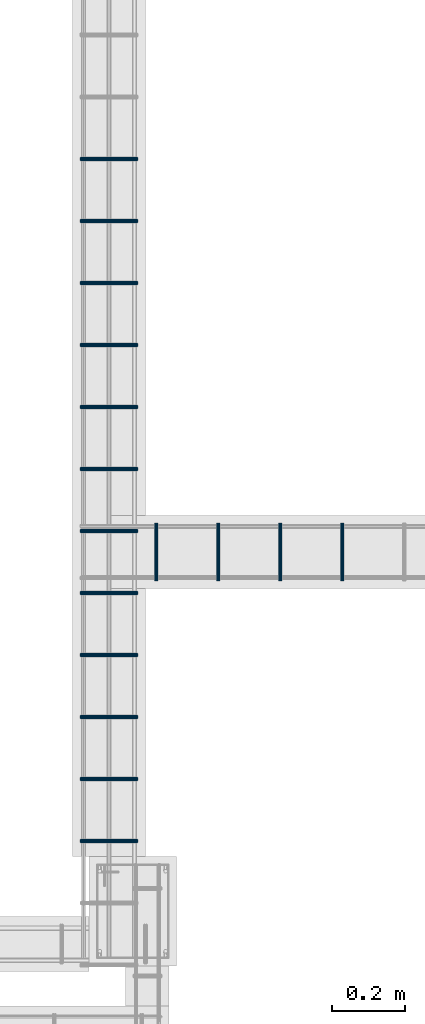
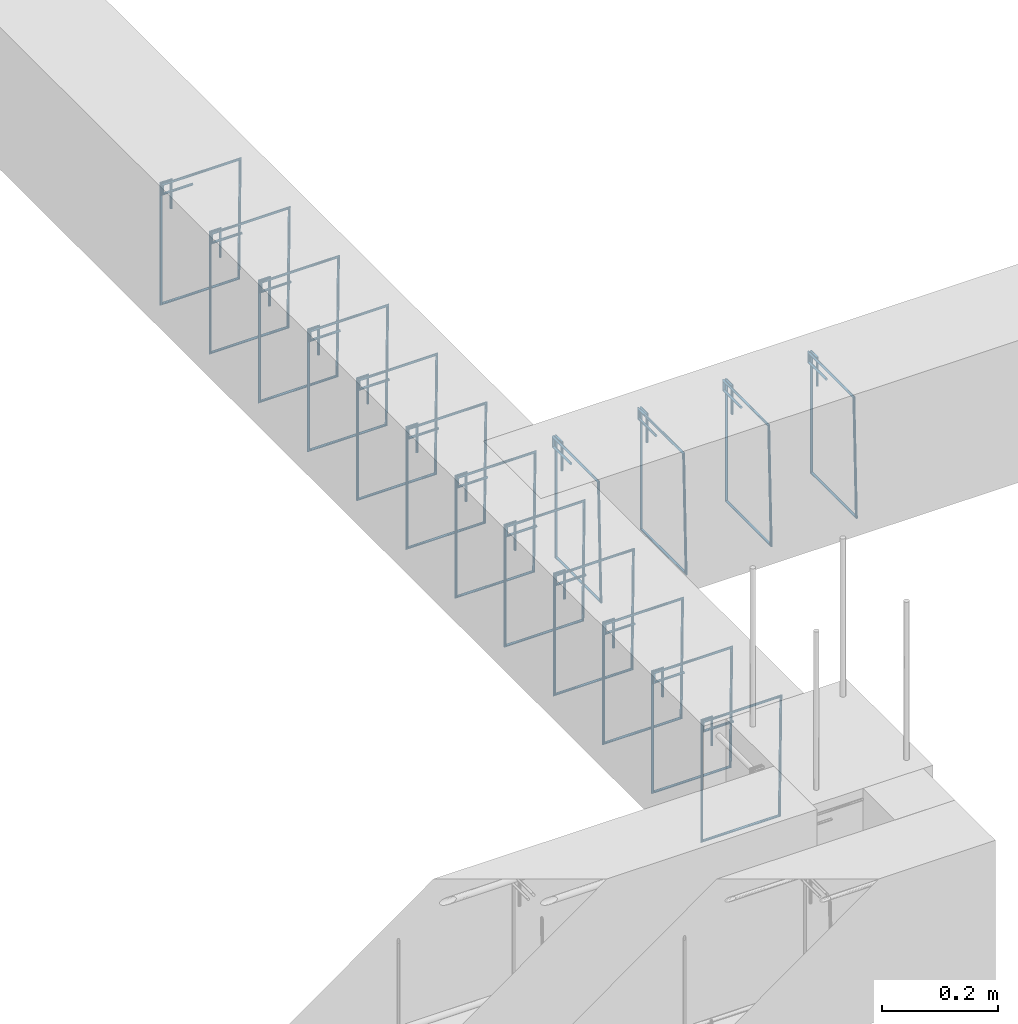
# One storey, part 84 of 150: 16 reinforcing bars.
"""IFC4 building model written with IfcOpenShell, lengths in centimetres."""

from ifc_helpers import new_model, entity, si_unit, derived_unit, frame, origin_with_axes, place, context, project, spatial, source, transform, mapped, element, save


model = new_model("IFC4")

# Units and contexts
model_context = context("Model", 3, precision=1e-05, world=origin_with_axes(), identifier="Body")
ifc_project = project(units=[si_unit("LENGTHUNIT", "METRE", prefix="CENTI"), si_unit("VOLUMEUNIT", "CUBIC_METRE"), si_unit("AREAUNIT", "SQUARE_METRE"), si_unit("POWERUNIT", "WATT"), si_unit("LUMINOUSFLUXUNIT", "LUMEN"), si_unit("ELECTRICCURRENTUNIT", "AMPERE"), si_unit("PRESSUREUNIT", "PASCAL", prefix="KILO"), si_unit("MASSUNIT", "GRAM", prefix="KILO"), si_unit("PLANEANGLEUNIT", "RADIAN"), derived_unit("VOLUMETRICFLOWRATEUNIT", [(si_unit("LENGTHUNIT", "METRE"), 3), (si_unit("TIMEUNIT", "SECOND"), -1)])], contexts=[model_context])

# Site, building, storey
site_placement = place(None, frame((-4000.0, 0.0, 0.0), z_axis=(0.0, 0.0, 1.0), x_axis=(1.0, 0.0, 0.0)))
site = spatial("IfcSite", under=ifc_project, at=site_placement, Name="PADRÃO")
building_placement = place(site_placement, frame((0.0, 0.0, -14.0)))
building = spatial("IfcBuilding", under=site, at=building_placement, Name="CRECHE PRÉ-ESCOLA TIPO 2")
placement = place(building_placement, origin_with_axes())
storey_placement = place(placement, frame((0.0, 0.0, 30.0), z_axis=(0.0, 0.0, 1.0), x_axis=(1.0, 0.0, 0.0)))
storey = spatial("IfcBuildingStorey", under=building, at=storey_placement, Name="VIGA BALDRAME", CompositionType="ELEMENT", Elevation=16.0)

# Reinforcing bars
shared_shape_1 = source(origin_with_axes(), model_context, "Body", "AdvancedSweptSolid", [
    entity("IfcSweptDiskSolid", entity("IfcCompositeCurve", [entity("IfcCompositeCurveSegment", "CONTINUOUS", True, entity("IfcPolyline", [entity("IfcCartesianPoint", [2.0, -6.0, 0.0]), entity("IfcCartesianPoint", [2.0, 0.0, 0.0])])), entity("IfcCompositeCurveSegment", "CONTINUOUS", True, entity("IfcPolyline", [entity("IfcCartesianPoint", [2.0, 0.0, 0.0]), entity("IfcCartesianPoint", [0.0, 0.0, 0.0])])), entity("IfcCompositeCurveSegment", "CONTINUOUS", True, entity("IfcPolyline", [entity("IfcCartesianPoint", [0.0, 0.0, 0.0]), entity("IfcCartesianPoint", [0.0, -25.5, 0.0])])), entity("IfcCompositeCurveSegment", "CONTINUOUS", True, entity("IfcPolyline", [entity("IfcCartesianPoint", [0.0, -25.5, 0.0]), entity("IfcCartesianPoint", [15.5, -25.5, 0.0])])), entity("IfcCompositeCurveSegment", "CONTINUOUS", True, entity("IfcPolyline", [entity("IfcCartesianPoint", [15.5, -25.5, 0.0]), entity("IfcCartesianPoint", [15.5, 0.0, 0.5])])), entity("IfcCompositeCurveSegment", "CONTINUOUS", True, entity("IfcPolyline", [entity("IfcCartesianPoint", [15.5, 0.0, 0.5]), entity("IfcCartesianPoint", [0.0, 0.0, 0.5])])), entity("IfcCompositeCurveSegment", "CONTINUOUS", True, entity("IfcPolyline", [entity("IfcCartesianPoint", [0.0, 0.0, 0.5]), entity("IfcCartesianPoint", [0.0, -2.0, 0.5])])), entity("IfcCompositeCurveSegment", "CONTINUOUS", True, entity("IfcPolyline", [entity("IfcCartesianPoint", [0.0, -2.0, 0.5]), entity("IfcCartesianPoint", [6.0, -2.0, 0.5])]))], False), 0.25),
])
for number, where, z_axis, x_axis, name in (
    (1, (3202.75, 2692.77, -2.25), (-1.0, 0.0, 0.0), (0.0, -1.0, 0.0), "V118 - Estribo"),
    (2, (3185.75, 2692.77, -2.25), (-1.0, 0.0, 0.0), (0.0, -1.0, 0.0), "V118 - Estribo"),
    (3, (3168.75, 2692.77, -2.25), (-1.0, 0.0, 0.0), (0.0, -1.0, 0.0), "V118 - Estribo"),
    (4, (3151.75, 2692.77, -2.25), (-1.0, 0.0, 0.0), (0.0, -1.0, 0.0), "V118 - Estribo"),
):
    element("IfcReinforcingBar", number, at=place(storey_placement, frame(where, z_axis=z_axis, x_axis=x_axis)), inside=storey, Name=name, BarLength=0.0, CrossSectionArea=1.9634954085e-05, NominalDiameter=0.5, PredefinedType="MAIN", context=model_context, shape_type="MappedRepresentation", body=[
        mapped(shared_shape_1, transform((0.0, 0.0, 0.0), scale=1.0)),
    ])
shared_shape_2 = source(origin_with_axes(), model_context, "Body", "AdvancedSweptSolid", [
    entity("IfcSweptDiskSolid", entity("IfcCompositeCurve", [entity("IfcCompositeCurveSegment", "CONTINUOUS", True, entity("IfcPolyline", [entity("IfcCartesianPoint", [2.0, -6.0, 0.0]), entity("IfcCartesianPoint", [2.0, 0.0, 0.0])])), entity("IfcCompositeCurveSegment", "CONTINUOUS", True, entity("IfcPolyline", [entity("IfcCartesianPoint", [2.0, 0.0, 0.0]), entity("IfcCartesianPoint", [0.0, 0.0, 0.0])])), entity("IfcCompositeCurveSegment", "CONTINUOUS", True, entity("IfcPolyline", [entity("IfcCartesianPoint", [0.0, 0.0, 0.0]), entity("IfcCartesianPoint", [0.0, -25.5, 0.0])])), entity("IfcCompositeCurveSegment", "CONTINUOUS", True, entity("IfcPolyline", [entity("IfcCartesianPoint", [0.0, -25.5, 0.0]), entity("IfcCartesianPoint", [15.5, -25.5, 0.0])])), entity("IfcCompositeCurveSegment", "CONTINUOUS", True, entity("IfcPolyline", [entity("IfcCartesianPoint", [15.5, -25.5, 0.0]), entity("IfcCartesianPoint", [15.5, 0.0, 0.5])])), entity("IfcCompositeCurveSegment", "CONTINUOUS", True, entity("IfcPolyline", [entity("IfcCartesianPoint", [15.5, 0.0, 0.5]), entity("IfcCartesianPoint", [0.0, 0.0, 0.5])])), entity("IfcCompositeCurveSegment", "CONTINUOUS", True, entity("IfcPolyline", [entity("IfcCartesianPoint", [0.0, 0.0, 0.5]), entity("IfcCartesianPoint", [0.0, -2.0, 0.5])])), entity("IfcCompositeCurveSegment", "CONTINUOUS", True, entity("IfcPolyline", [entity("IfcCartesianPoint", [0.0, -2.0, 0.5]), entity("IfcCartesianPoint", [6.0, -2.0, 0.5])]))], False), 0.25),
])
for number, where, z_axis, x_axis, name in (
    (5, (3130.75, 2606.02, -2.25), (0.0, -1.0, 0.0), (1.0, 0.0, 0.0), "V219 - Estribo"),
    (6, (3130.75, 2623.02, -2.25), (0.0, -1.0, 0.0), (1.0, 0.0, 0.0), "V219 - Estribo"),
    (7, (3130.75, 2640.02, -2.25), (0.0, -1.0, 0.0), (1.0, 0.0, 0.0), "V219 - Estribo"),
    (8, (3130.75, 2657.02, -2.25), (0.0, -1.0, 0.0), (1.0, 0.0, 0.0), "V219 - Estribo"),
    (9, (3130.75, 2691.02, -2.25), (0.0, -1.0, 0.0), (1.0, 0.0, 0.0), "V219 - Estribo"),
    (10, (3130.75, 2708.02, -2.25), (0.0, -1.0, 0.0), (1.0, 0.0, 0.0), "V219 - Estribo"),
    (11, (3130.75, 2674.02, -2.25), (0.0, -1.0, 0.0), (1.0, 0.0, 0.0), "V219 - Estribo"),
    (12, (3130.75, 2742.02, -2.25), (0.0, -1.0, 0.0), (1.0, 0.0, 0.0), "V219 - Estribo"),
    (13, (3130.75, 2759.02, -2.25), (0.0, -1.0, 0.0), (1.0, 0.0, 0.0), "V219 - Estribo"),
    (14, (3130.75, 2776.02, -2.25), (0.0, -1.0, 0.0), (1.0, 0.0, 0.0), "V219 - Estribo"),
    (15, (3130.75, 2793.02, -2.25), (0.0, -1.0, 0.0), (1.0, 0.0, 0.0), "V219 - Estribo"),
    (16, (3130.75, 2725.02, -2.25), (0.0, -1.0, 0.0), (1.0, 0.0, 0.0), "V219 - Estribo"),
):
    element("IfcReinforcingBar", number, at=place(storey_placement, frame(where, z_axis=z_axis, x_axis=x_axis)), inside=storey, Name=name, BarLength=0.0, CrossSectionArea=1.9634954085e-05, NominalDiameter=0.5, PredefinedType="MAIN", context=model_context, shape_type="MappedRepresentation", body=[
        mapped(shared_shape_2, transform((0.0, 0.0, 0.0), scale=1.0)),
    ])

save(model, "model.ifc")
